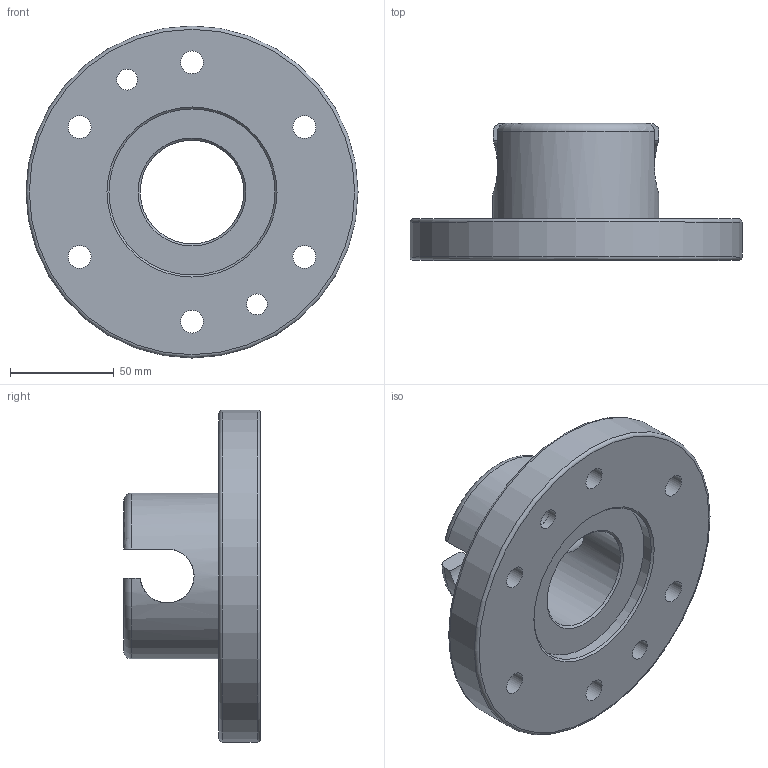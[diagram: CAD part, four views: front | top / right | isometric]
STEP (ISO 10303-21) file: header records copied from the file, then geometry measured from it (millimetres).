
FILE_DESCRIPTION((''),'2;1');
FILE_NAME('T:\CAD\Standard\Daten\3D-Datenbank\MGW\MGW160\step-Daten\G-MGW160-2U.stp','2011-05-12T14:37:36',('Yvonne'),(''),'Autodesk Inventor 2011','Autodesk Inventor 2011','');
FILE_SCHEMA(('AUTOMOTIVE_DESIGN { 1 0 10303 214 1 1 1 1 }'));
Length unit declared in the file: millimetre
Products named in the file (1): G-MGW160-4
Bounding box: 160 x 66 x 160 mm (x, y, z)
Volume: 437264.4 mm3; surface area: 72488.6 mm2
Topology: 1 solids, 1 shells, 46 faces, 107 edges, 70 vertices
Faces by surface type: cylinder 21, plane 15, cone 6, torus 4
Full cylindrical faces by diameter (mm): 10 x2, 11 x6, 12.1 x1, 18 x6, 50 x1, 80 x2, 160 x1
Entity records: 1396 total; most frequent: CARTESIAN_POINT 393, DIRECTION 208, ORIENTED_EDGE 154, AXIS2_PLACEMENT_3D 96, EDGE_LOOP 96, EDGE_CURVE 77, VERTEX_POINT 65, FACE_BOUND 50
